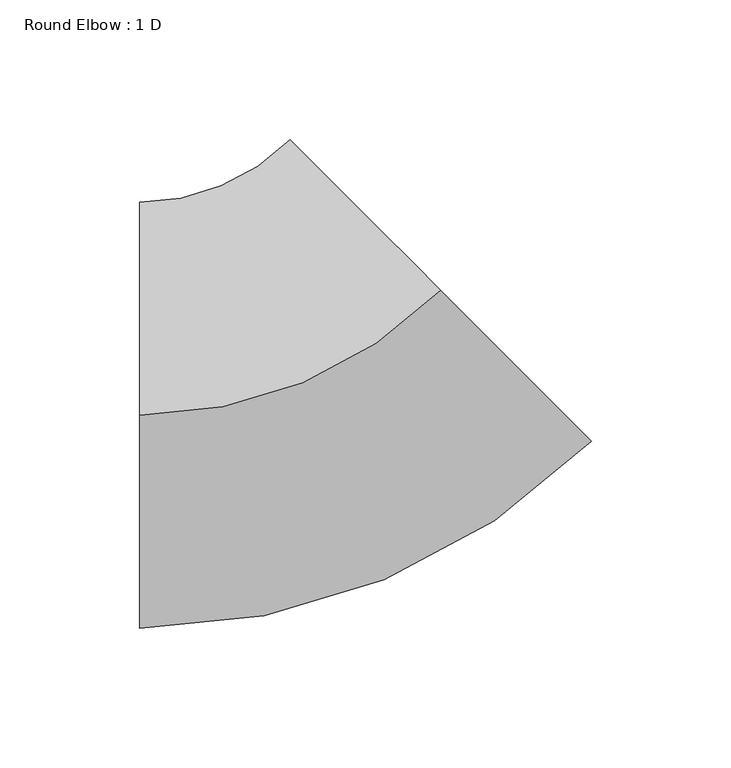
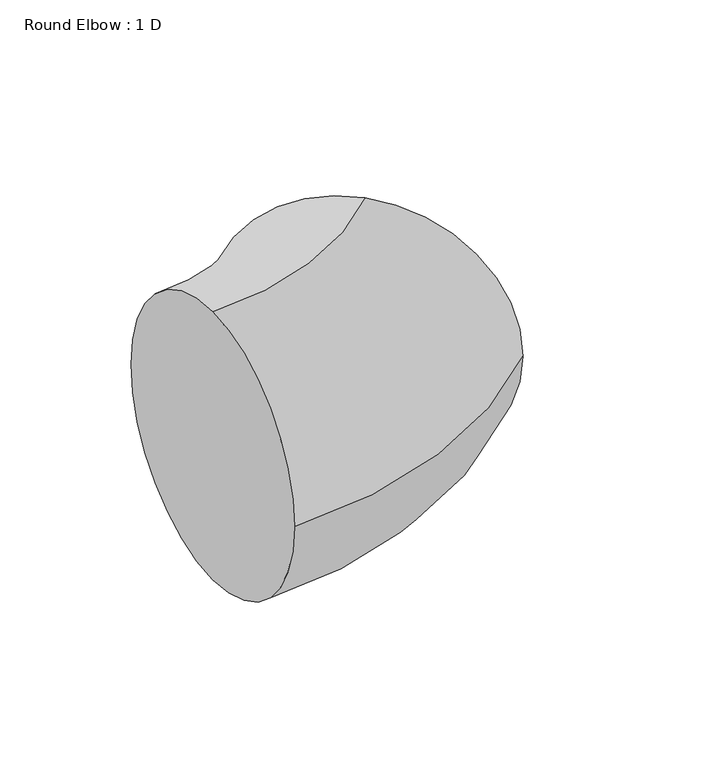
"""IFC4 building model written with IfcOpenShell, lengths in millimetres: duct fitting geometry, Round Elbow : 1 D."""

from ifc_helpers import new_model, si_unit, point, frame, origin, place, context, project, spatial, circle_curve, ellipse_curve, trimmed, source, transform, mapped, element, save
from ifc_brep_helpers import plane_surface, revolved_surface, advanced_brep


def round_elbow_1_d_9a27e954(model_context):
    return source(origin(), model_context, "Body", "AdvancedBrep", [
        advanced_brep(
        [(-63.1261469, 0.0, 76.2), (-63.1261469, 76.2, 0.0), (-63.1261469, 0.0, -76.2), (-63.1261469, -76.2, 0.0), (44.6369265, 44.6369265, 76.2), (98.5184633, -9.2446102, 0.0), (44.6369265, 44.6369265, -76.2), (-9.2446102, 98.5184633, 0.0)],
        [
            (0, 1, circle_curve(frame((-63.1261469, 0.0, 0.0), z_axis=(-1.0, 0.0, 0.0), x_axis=(0.0, 1.0, 0.0)), 76.2)),
            (1, 2, circle_curve(frame((-63.1261469, 0.0, 0.0), z_axis=(-1.0, 0.0, 0.0), x_axis=(0.0, 1.0, 0.0)), 76.2)),
            (2, 3, circle_curve(frame((-63.1261469, 0.0, 0.0), z_axis=(-1.0, 0.0, 0.0), x_axis=(0.0, 1.0, 0.0)), 76.2)),
            (3, 0, circle_curve(frame((-63.1261469, 0.0, 0.0), z_axis=(-1.0, 0.0, 0.0), x_axis=(0.0, 1.0, 0.0)), 76.2)),
            (4, 5, circle_curve(frame((44.6369265, 44.6369265, 0.0), z_axis=(0.707106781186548, 0.707106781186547, 0.0), x_axis=(-0.707106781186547, 0.707106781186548, 0.0)), 76.2)),
            (5, 6, circle_curve(frame((44.6369265, 44.6369265, 0.0), z_axis=(0.707106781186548, 0.707106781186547, 0.0), x_axis=(-0.707106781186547, 0.707106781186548, 0.0)), 76.2)),
            (6, 7, circle_curve(frame((44.6369265, 44.6369265, 0.0), z_axis=(0.707106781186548, 0.707106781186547, 0.0), x_axis=(-0.707106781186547, 0.707106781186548, 0.0)), 76.2)),
            (7, 4, circle_curve(frame((44.6369265, 44.6369265, 0.0), z_axis=(0.707106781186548, 0.707106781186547, 0.0), x_axis=(-0.707106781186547, 0.707106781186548, 0.0)), 76.2)),
            (7, 1, circle_curve(frame((-63.1261469, 152.4, 0.0), z_axis=(0.0, 0.0, -1.0), x_axis=(0.0, -1.0, 0.0)), 76.2)),
            (0, 4, circle_curve(frame((-63.1261469, 152.4, 76.2), z_axis=(0.0, 0.0, 1.0), x_axis=(0.0, -1.0, 0.0)), 152.4)),
            (6, 2, circle_curve(frame((-63.1261469, 152.4, -76.2), z_axis=(0.0, 0.0, -1.0), x_axis=(0.0, -1.0, 0.0)), 152.4)),
            (5, 3, circle_curve(frame((-63.1261469, 152.4, 0.0), z_axis=(0.0, 0.0, -1.0), x_axis=(0.0, -1.0, 0.0)), 228.6)),
        ],
        [
            plane_surface(frame((-63.1261469, 0.0, 0.0), z_axis=(-1.0, 0.0, 0.0), x_axis=(0.0, 0.0, 1.0))),
            plane_surface(frame((44.6369265, 44.6369265, 0.0), z_axis=(0.707106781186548, 0.7071067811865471, 0.0), x_axis=(0.0, 0.0, 1.0))),
            revolved_surface(trimmed(ellipse_curve(frame((-63.1261469, 0.0, 0.0), z_axis=(-1.0, 0.0, 0.0), x_axis=(0.0, 1.0, 0.0)), 76.2, 76.2), [point((-63.1261469, 0.0, 76.2))], [point((-63.1261469, 76.2, 0.0))], True, "CARTESIAN"), (-63.1261469, 152.4, 0.0), (0.0, 0.0, 1.0)),
            revolved_surface(trimmed(ellipse_curve(frame((-63.1261469, 0.0, 0.0), z_axis=(-1.0, 0.0, 0.0), x_axis=(0.0, 1.0, 0.0)), 76.2, 76.2), [point((-63.1261469, 76.2, 0.0))], [point((-63.1261469, 0.0, -76.2))], True, "CARTESIAN"), (-63.1261469, 152.4, 0.0), (0.0, 0.0, 1.0)),
            revolved_surface(trimmed(ellipse_curve(frame((-63.1261469, 0.0, 0.0), z_axis=(-1.0, 0.0, 0.0), x_axis=(0.0, 1.0, 0.0)), 76.2, 76.2), [point((-63.1261469, 0.0, -76.2))], [point((-63.1261469, -76.2, 0.0))], True, "CARTESIAN"), (-63.1261469, 152.4, 0.0), (0.0, 0.0, 1.0)),
            revolved_surface(trimmed(ellipse_curve(frame((-63.1261469, 0.0, 0.0), z_axis=(-1.0, 0.0, 0.0), x_axis=(0.0, 1.0, 0.0)), 76.2, 76.2), [point((-63.1261469, -76.2, 0.0))], [point((-63.1261469, 0.0, 76.2))], True, "CARTESIAN"), (-63.1261469, 152.4, 0.0), (0.0, 0.0, 1.0)),
        ],
        [
            (0, [[1, 2, 3, 4]]),
            (1, [[5, 6, 7, 8]]),
            (2, [[9, -1, 10, -8]]),
            (3, [[11, -2, -9, -7]]),
            (4, [[12, -3, -11, -6]]),
            (5, [[-10, -4, -12, -5]]),
        ],
    ),
    ])


if __name__ == "__main__":
    model = new_model("IFC4")
    model_context = context("Model", 3, world=origin())
    ifc_project = project(units=[si_unit("LENGTHUNIT", "METRE", prefix="MILLI")], contexts=[model_context])
    site = spatial("IfcSite", under=ifc_project)
    building = spatial("IfcBuilding", under=site)
    placement = place(None, origin())
    round_elbow_1_d_shape = round_elbow_1_d_9a27e954(model_context)
    element("IfcDuctFitting", 1, ObjectType="Round Elbow : 1 D", at=placement, inside=building, context=model_context, shape_type="MappedRepresentation", body=[
        mapped(round_elbow_1_d_shape, transform((0.0, 0.0, 0.0), x_axis=(1.0, 0.0, 0.0), y_axis=(0.0, 1.0, 0.0), z_axis=(0.0, 0.0, 1.0))),
    ])
    save(model, "model.ifc")
